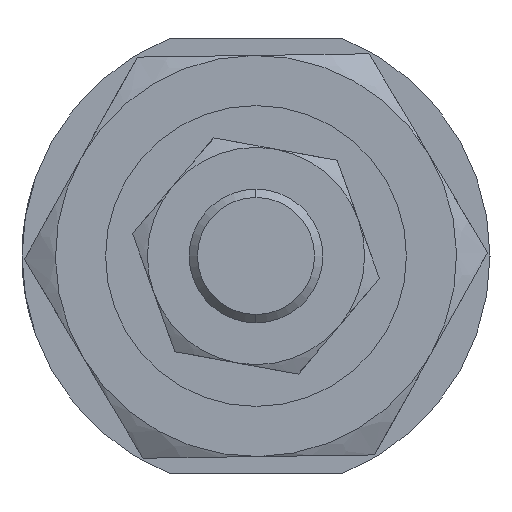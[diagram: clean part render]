
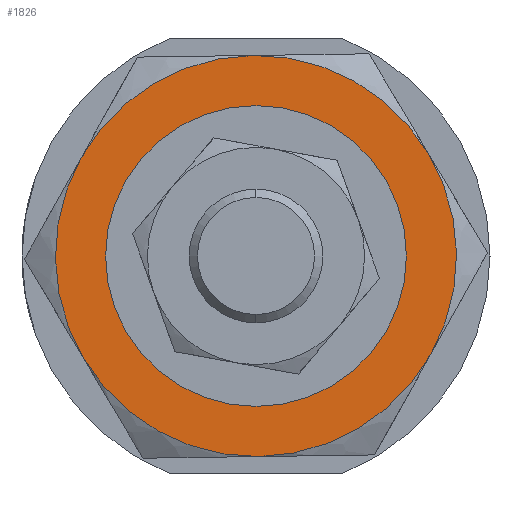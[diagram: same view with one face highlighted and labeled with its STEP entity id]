
A CAD part, left-side view. The second image highlights one B-rep face of the part: STEP entity #1826.
In plain terms, the highlighted planar face has unit normal (-1, 0, 0) as drawn and (0, 0, -1) by its records, which use the part's own axes.
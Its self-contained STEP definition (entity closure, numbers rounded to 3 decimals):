
#23 = CARTESIAN_POINT ( 'NONE',  ( 0., 0., -4. ) ) ;
#50 = AXIS2_PLACEMENT_3D ( 'NONE', #2292, #1169, #464 ) ;
#103 = DIRECTION ( 'NONE',  ( 0., 0., 1. ) ) ;
#137 = CIRCLE ( 'NONE', #2105, 12. ) ;
#161 = AXIS2_PLACEMENT_3D ( 'NONE', #1833, #914, #1069 ) ;
#243 = ORIENTED_EDGE ( 'NONE', *, *, #1920, .T. ) ;
#253 = VERTEX_POINT ( 'NONE', #580 ) ;
#257 = ORIENTED_EDGE ( 'NONE', *, *, #2109, .F. ) ;
#268 = DIRECTION ( 'NONE',  ( 0., 0., 1. ) ) ;
#397 = EDGE_CURVE ( 'NONE', #253, #1039, #1654, .T. ) ;
#464 = DIRECTION ( 'NONE',  ( 1., 0., 0. ) ) ;
#490 = EDGE_CURVE ( 'NONE', #2024, #1050, #1268, .T. ) ;
#532 = CARTESIAN_POINT ( 'NONE',  ( 0., 0., -4. ) ) ;
#539 = CARTESIAN_POINT ( 'NONE',  ( -6., 10.392, -4. ) ) ;
#541 = EDGE_CURVE ( 'NONE', #1039, #1105, #137, .T. ) ;
#580 = CARTESIAN_POINT ( 'NONE',  ( -12., 0., -4. ) ) ;
#615 = FACE_OUTER_BOUND ( 'NONE', #1290, .T. ) ;
#677 = PLANE ( 'NONE',  #50 ) ;
#705 = ORIENTED_EDGE ( 'NONE', *, *, #541, .F. ) ;
#729 = DIRECTION ( 'NONE',  ( 1., 0., 0. ) ) ;
#849 = CARTESIAN_POINT ( 'NONE',  ( 12., 0., -4. ) ) ;
#914 = DIRECTION ( 'NONE',  ( 0., 0., 1. ) ) ;
#917 = CARTESIAN_POINT ( 'NONE',  ( 0., 0., -4. ) ) ;
#920 = DIRECTION ( 'NONE',  ( 0., 0., 1. ) ) ;
#978 = CIRCLE ( 'NONE', #2283, 12. ) ;
#992 = EDGE_CURVE ( 'NONE', #3092, #1200, #1335, .T. ) ;
#1012 = AXIS2_PLACEMENT_3D ( 'NONE', #1252, #1606, #3033 ) ;
#1039 = VERTEX_POINT ( 'NONE', #2091 ) ;
#1050 = VERTEX_POINT ( 'NONE', #1625 ) ;
#1066 = FACE_BOUND ( 'NONE', #2972, .T. ) ;
#1069 = DIRECTION ( 'NONE',  ( 1., 0., 0. ) ) ;
#1078 = CARTESIAN_POINT ( 'NONE',  ( 8.25, 0., -4. ) ) ;
#1105 = VERTEX_POINT ( 'NONE', #1323 ) ;
#1169 = DIRECTION ( 'NONE',  ( 0., 0., 1. ) ) ;
#1191 = VERTEX_POINT ( 'NONE', #539 ) ;
#1195 = CIRCLE ( 'NONE', #1659, 12. ) ;
#1200 = VERTEX_POINT ( 'NONE', #2867 ) ;
#1252 = CARTESIAN_POINT ( 'NONE',  ( 0., 0., -4. ) ) ;
#1268 = CIRCLE ( 'NONE', #161, 12. ) ;
#1290 = EDGE_LOOP ( 'NONE', ( #1825, #1399, #705, #2067, #1972, #257 ) ) ;
#1323 = CARTESIAN_POINT ( 'NONE',  ( 6., -10.392, -4. ) ) ;
#1335 = CIRCLE ( 'NONE', #1476, 8.25 ) ;
#1399 = ORIENTED_EDGE ( 'NONE', *, *, #1429, .F. ) ;
#1416 = CARTESIAN_POINT ( 'NONE',  ( 0., 0., -4. ) ) ;
#1429 = EDGE_CURVE ( 'NONE', #1105, #2024, #978, .T. ) ;
#1476 = AXIS2_PLACEMENT_3D ( 'NONE', #1416, #920, #729 ) ;
#1606 = DIRECTION ( 'NONE',  ( 0., 0., 1. ) ) ;
#1623 = DIRECTION ( 'NONE',  ( 1., 0., 0. ) ) ;
#1625 = CARTESIAN_POINT ( 'NONE',  ( 6., 10.392, -4. ) ) ;
#1654 = CIRCLE ( 'NONE', #3071, 12. ) ;
#1659 = AXIS2_PLACEMENT_3D ( 'NONE', #917, #2301, #2699 ) ;
#1683 = DIRECTION ( 'NONE',  ( 0., 0., 1. ) ) ;
#1825 = ORIENTED_EDGE ( 'NONE', *, *, #490, .F. ) ;
#1826 = ADVANCED_FACE ( 'NONE', ( #1066, #615 ), #677, .F. ) ;
#1833 = CARTESIAN_POINT ( 'NONE',  ( 0., 0., -4. ) ) ;
#1900 = CIRCLE ( 'NONE', #1012, 12. ) ;
#1920 = EDGE_CURVE ( 'NONE', #1200, #3092, #2202, .T. ) ;
#1972 = ORIENTED_EDGE ( 'NONE', *, *, #1999, .F. ) ;
#1999 = EDGE_CURVE ( 'NONE', #1191, #253, #1195, .T. ) ;
#2024 = VERTEX_POINT ( 'NONE', #849 ) ;
#2061 = ORIENTED_EDGE ( 'NONE', *, *, #992, .T. ) ;
#2067 = ORIENTED_EDGE ( 'NONE', *, *, #397, .F. ) ;
#2091 = CARTESIAN_POINT ( 'NONE',  ( -6., -10.392, -4. ) ) ;
#2105 = AXIS2_PLACEMENT_3D ( 'NONE', #23, #1683, #1623 ) ;
#2109 = EDGE_CURVE ( 'NONE', #1050, #1191, #1900, .T. ) ;
#2171 = AXIS2_PLACEMENT_3D ( 'NONE', #2489, #103, #2937 ) ;
#2202 = CIRCLE ( 'NONE', #2171, 8.25 ) ;
#2283 = AXIS2_PLACEMENT_3D ( 'NONE', #2741, #268, #2297 ) ;
#2292 = CARTESIAN_POINT ( 'NONE',  ( 0., 0., -4. ) ) ;
#2297 = DIRECTION ( 'NONE',  ( 1., 0., 0. ) ) ;
#2301 = DIRECTION ( 'NONE',  ( 0., 0., 1. ) ) ;
#2489 = CARTESIAN_POINT ( 'NONE',  ( 0., 0., -4. ) ) ;
#2562 = DIRECTION ( 'NONE',  ( 1., 0., 0. ) ) ;
#2699 = DIRECTION ( 'NONE',  ( 1., 0., 0. ) ) ;
#2741 = CARTESIAN_POINT ( 'NONE',  ( 0., 0., -4. ) ) ;
#2767 = DIRECTION ( 'NONE',  ( 0., 0., 1. ) ) ;
#2867 = CARTESIAN_POINT ( 'NONE',  ( -8.25, 0., -4. ) ) ;
#2937 = DIRECTION ( 'NONE',  ( 1., 0., 0. ) ) ;
#2972 = EDGE_LOOP ( 'NONE', ( #2061, #243 ) ) ;
#3033 = DIRECTION ( 'NONE',  ( 1., 0., 0. ) ) ;
#3071 = AXIS2_PLACEMENT_3D ( 'NONE', #532, #2767, #2562 ) ;
#3092 = VERTEX_POINT ( 'NONE', #1078 ) ;
